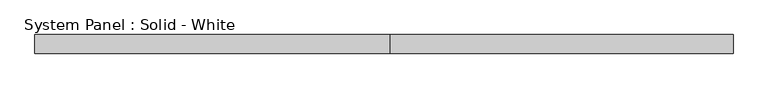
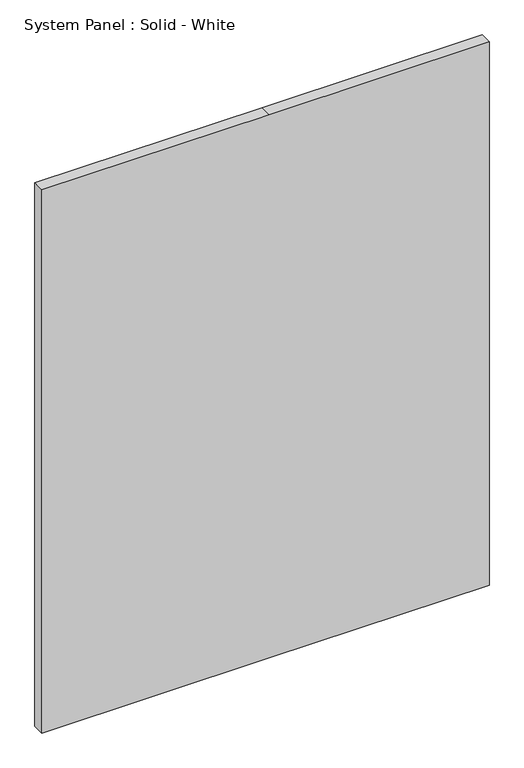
"""IFC4 building model written with IfcOpenShell, lengths in millimetres: plate geometry, System Panel : Solid - White."""

from ifc_helpers import new_model, si_unit, frame, origin, place, context, project, spatial, polyline, outline, extrude, source, transform, mapped, element, save


def system_panel_solid_white_33da1543(model_context):
    return source(origin(), model_context, "Body", "SweptSolid", [
        extrude(outline(polyline([(0.0, -1161.9835595), (0.0, 20.3864404), (0.0, 1161.9835595), (2984.5, 1161.9835595), (2984.5, 20.3864404), (2984.5, -1161.9835595), (0.0, -1161.9835595)])), frame((0.0, -19.05, 0.0), z_axis=(0.0, 1.0, 0.0), x_axis=(0.0, 0.0, 1.0)), (0.0, 0.0, 1.0), 63.5),
    ])


if __name__ == "__main__":
    model = new_model("IFC4")
    model_context = context("Model", 3, world=origin())
    ifc_project = project(units=[si_unit("LENGTHUNIT", "METRE", prefix="MILLI")], contexts=[model_context])
    site = spatial("IfcSite", under=ifc_project)
    building = spatial("IfcBuilding", under=site)
    placement = place(None, origin())
    system_panel_solid_white_shape = system_panel_solid_white_33da1543(model_context)
    element("IfcPlate", 1, ObjectType="System Panel : Solid - White", at=placement, inside=building, context=model_context, shape_type="MappedRepresentation", body=[
        mapped(system_panel_solid_white_shape, transform((0.0, 0.0, 0.0), x_axis=(1.0, 0.0, 0.0), y_axis=(0.0, 1.0, 0.0), z_axis=(0.0, 0.0, 1.0))),
    ])
    save(model, "model.ifc")
